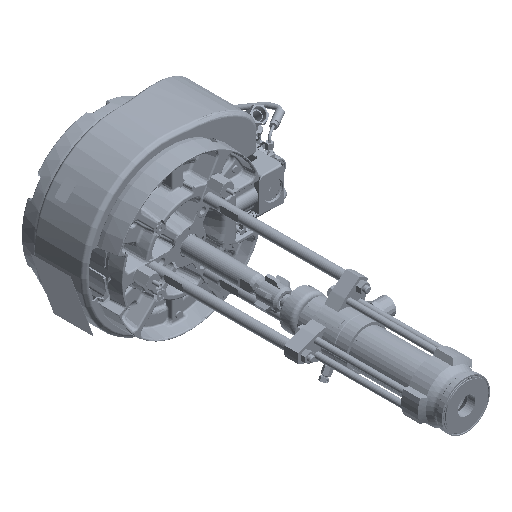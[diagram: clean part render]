
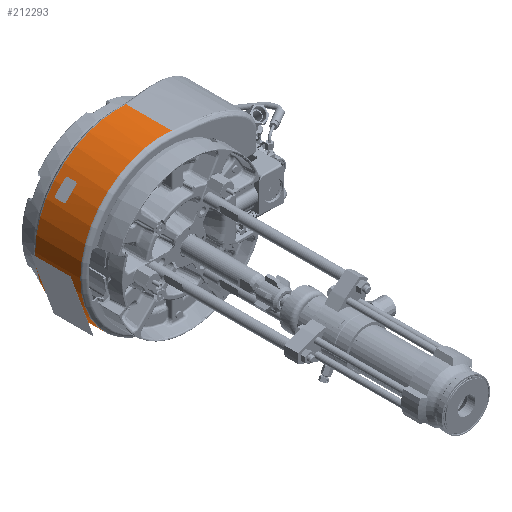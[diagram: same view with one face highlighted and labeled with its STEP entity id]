
A CAD part, isometric view. The second image highlights one B-rep face of the part: STEP entity #212293.
In plain terms, the highlighted cylindrical face has radius 227.33 mm (diameter 454.66 mm), a partial arc.
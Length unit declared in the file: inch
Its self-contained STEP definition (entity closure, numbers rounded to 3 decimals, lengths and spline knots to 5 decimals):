
#194805=CARTESIAN_POINT('',(-0.15263,-2.37355,
-8.9487));
#194806=CARTESIAN_POINT('',(-0.02283,-2.37354,
-8.95091));
#194807=CARTESIAN_POINT('',(0.22773,-2.36906,
-8.94954));
#194808=CARTESIAN_POINT('',(0.5757,-2.35174,
-8.93355));
#194809=CARTESIAN_POINT('',(0.78912,-2.3348,
-8.91573));
#194810=CARTESIAN_POINT('',(0.89118,-2.32537,
-8.90552));
#194812=CARTESIAN_POINT('',(0.,-2.37355,0.));
#194813=DIRECTION('',(0.,-1.,0.));
#194814=DIRECTION('',(-0.017,0.,1.));
#194815=AXIS2_PLACEMENT_3D('',#194812,#194813,#194814);
#194817=CARTESIAN_POINT('',(0.89118,-2.32537,
8.90552));
#194818=CARTESIAN_POINT('',(0.76261,-2.33725,
8.91839));
#194819=CARTESIAN_POINT('',(0.51353,-2.35585,
8.93769));
#194820=CARTESIAN_POINT('',(0.16531,-2.37072,
8.95057));
#194821=CARTESIAN_POINT('',(-0.04958,-2.37354,
8.95046));
#194822=CARTESIAN_POINT('',(-0.15263,-2.37355,
8.9487));
#194824=DIRECTION('',(0.,-1.,0.));
#194825=VECTOR('',#194824,4.92108);
#194826=CARTESIAN_POINT('',(0.89118,-2.32537,
8.90552));
#194827=LINE('',#194826,#194825);
#194828=CARTESIAN_POINT('',(0.,-7.24645,0.));
#194829=DIRECTION('',(0.,1.,0.));
#194830=DIRECTION('',(0.1,0.,-0.995));
#194831=AXIS2_PLACEMENT_3D('',#194828,#194829,#194830);
#194909=CARTESIAN_POINT('',(0.89118,-2.32537,
-8.90552));
#194911=DIRECTION('',(0.,-1.,0.));
#194912=VECTOR('',#194911,4.92108);
#194913=CARTESIAN_POINT('',(0.89118,-2.32537,
-8.90552));
#194914=LINE('',#194913,#194912);
#205026=VERTEX_POINT('',#194909);
#205028=VERTEX_POINT('',#194805);
#205030=CARTESIAN_POINT('',(-0.15263,-2.37355,
8.9487));
#205031=VERTEX_POINT('',#205030);
#205034=VERTEX_POINT('',#194817);
#205082=CARTESIAN_POINT('',(0.89118,-7.24645,
8.90552));
#205083=VERTEX_POINT('',#205082);
#205086=CARTESIAN_POINT('',(0.89118,-7.24645,
-8.90552));
#205087=VERTEX_POINT('',#205086);
#212276=CARTESIAN_POINT('',(0.,-7.66,0.));
#212277=DIRECTION('',(0.,1.,0.));
#212278=DIRECTION('',(0.,0.,-1.));
#212279=AXIS2_PLACEMENT_3D('',#212276,#212277,#212278);
#212280=CYLINDRICAL_SURFACE('',#212279,8.95);
#212282=ORIENTED_EDGE('',*,*,#212281,.F.);
#212284=ORIENTED_EDGE('',*,*,#212283,.F.);
#212285=ORIENTED_EDGE('',*,*,#212266,.F.);
#212286=ORIENTED_EDGE('',*,*,#212097,.T.);
#212288=ORIENTED_EDGE('',*,*,#212287,.F.);
#212290=ORIENTED_EDGE('',*,*,#212289,.F.);
#212291=EDGE_LOOP('',(#212282,#212284,#212285,#212286,#212288,#212290));
#212292=FACE_OUTER_BOUND('',#212291,.F.);
#212293=ADVANCED_FACE('',(#212292),#212280,.T.);
#194811=B_SPLINE_CURVE_WITH_KNOTS('',3,(#194805,#194806,#194807,#194808,#194809,
#194810),.UNSPECIFIED.,.F.,.F.,(4,1,1,4),(0.,0.33333,
0.66667,1.),.UNSPECIFIED.);
#194816=CIRCLE('',#194815,8.95);
#194823=B_SPLINE_CURVE_WITH_KNOTS('',3,(#194817,#194818,#194819,#194820,#194821,
#194822),.UNSPECIFIED.,.F.,.F.,(4,1,1,4),(0.,0.33333,
0.66667,1.),.UNSPECIFIED.);
#194832=CIRCLE('',#194831,8.95);
#212097=EDGE_CURVE('',#205034,#205083,#194827,.T.);
#212266=EDGE_CURVE('',#205034,#205031,#194823,.T.);
#212281=EDGE_CURVE('',#205028,#205026,#194811,.T.);
#212283=EDGE_CURVE('',#205031,#205028,#194816,.T.);
#212287=EDGE_CURVE('',#205087,#205083,#194832,.T.);
#212289=EDGE_CURVE('',#205026,#205087,#194914,.T.);
